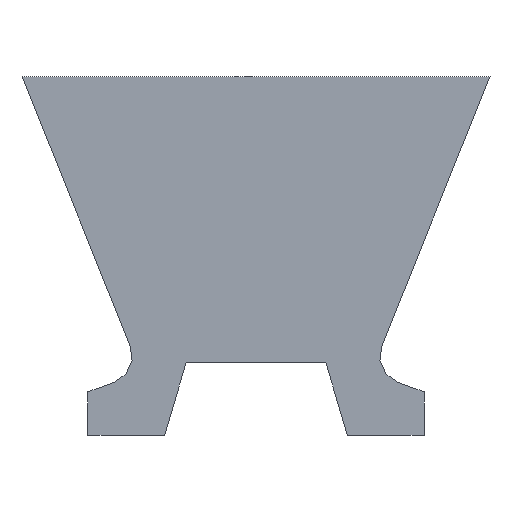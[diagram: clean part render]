
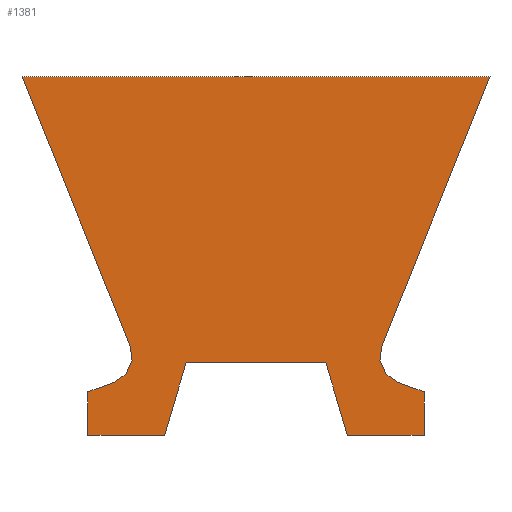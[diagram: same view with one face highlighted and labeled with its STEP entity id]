
A CAD part, front view. The second image highlights one B-rep face of the part: STEP entity #1381.
In plain terms, the highlighted planar face has unit normal (0, -1, 0).
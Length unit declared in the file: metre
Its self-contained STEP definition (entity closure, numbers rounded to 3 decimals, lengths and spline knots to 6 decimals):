
#196=CARTESIAN_POINT(' ',(-0.00515,-0.56,0.007423));
#197=VERTEX_POINT(' ',#196);
#211=CARTESIAN_POINT(' ',(0.00515,-0.56,0.007423));
#216=DIRECTION(' ',(-1.,0.,0.));
#221=VECTOR(' ',#216,1.);
#226=LINE('',#211,#221);
#231=CARTESIAN_POINT(' ',(0.00515,-0.56,0.007423));
#232=VERTEX_POINT(' ',#231);
#236=EDGE_CURVE(' ',#232,#197,#226,.T.);
#846=CARTESIAN_POINT(' ',(-0.002765,-0.56,0.001483));
#847=VERTEX_POINT(' ',#846);
#861=CARTESIAN_POINT(' ',(-0.00515,-0.56,0.007423));
#866=DIRECTION(' ',(0.373,0.,-0.928));
#871=VECTOR(' ',#866,1.);
#876=LINE('',#861,#871);
#881=EDGE_CURVE(' ',#197,#847,#876,.T.);
#911=DIRECTION(' ',(-0.,-1.,-0.));
#916=CARTESIAN_POINT(' ',(-0.00515,-0.56,-0.000477));
#921=DIRECTION(' ',(1.,0.,0.));
#926=AXIS2_PLACEMENT_3D(' ',#916,#911,#921);
#931=PLANE('',#926);
#936=ORIENTED_EDGE(' ',*,*,#236,.T.);
#941=ORIENTED_EDGE(' ',*,*,#881,.T.);
#946=CARTESIAN_POINT(' ',(-0.003322,-0.56,0.001259));
#951=DIRECTION(' ',(0.,1.,0.));
#956=DIRECTION(' ',(0.928,0.,0.373));
#961=AXIS2_PLACEMENT_3D(' ',#946,#951,#956);
#966=CIRCLE('',#961,0.0006);
#971=CARTESIAN_POINT(' ',(-0.003117,-0.56,0.000695));
#972=VERTEX_POINT(' ',#971);
#976=EDGE_CURVE(' ',#847,#972,#966,.T.);
#981=ORIENTED_EDGE(' ',*,*,#976,.T.);
#986=CARTESIAN_POINT(' ',(-0.003117,-0.56,0.000695));
#991=DIRECTION(' ',(-0.94,0.,-0.342));
#996=VECTOR(' ',#991,1.);
#1001=LINE('',#986,#996);
#1006=CARTESIAN_POINT(' ',(-0.0037,-0.56,0.000483));
#1007=VERTEX_POINT(' ',#1006);
#1011=EDGE_CURVE(' ',#972,#1007,#1001,.T.);
#1016=ORIENTED_EDGE(' ',*,*,#1011,.T.);
#1021=CARTESIAN_POINT(' ',(-0.0037,-0.56,0.000483));
#1026=DIRECTION(' ',(0.,0.,-1.));
#1031=VECTOR(' ',#1026,1.);
#1036=LINE('',#1021,#1031);
#1041=CARTESIAN_POINT(' ',(-0.0037,-0.56,-0.000477));
#1042=VERTEX_POINT(' ',#1041);
#1046=EDGE_CURVE(' ',#1007,#1042,#1036,.T.);
#1051=ORIENTED_EDGE(' ',*,*,#1046,.T.);
#1056=CARTESIAN_POINT(' ',(-0.0037,-0.56,-0.000477));
#1061=DIRECTION(' ',(1.,0.,0.));
#1066=VECTOR(' ',#1061,1.);
#1071=LINE('',#1056,#1066);
#1076=CARTESIAN_POINT(' ',(-0.002012,-0.56,-0.000477));
#1077=VERTEX_POINT(' ',#1076);
#1081=EDGE_CURVE(' ',#1042,#1077,#1071,.T.);
#1086=ORIENTED_EDGE(' ',*,*,#1081,.T.);
#1091=CARTESIAN_POINT(' ',(-0.002012,-0.56,-0.000477));
#1096=DIRECTION(' ',(0.285,0.,0.959));
#1101=VECTOR(' ',#1096,1.);
#1106=LINE('',#1091,#1101);
#1111=CARTESIAN_POINT(' ',(-0.001537,-0.56,0.001123));
#1112=VERTEX_POINT(' ',#1111);
#1116=EDGE_CURVE(' ',#1077,#1112,#1106,.T.);
#1121=ORIENTED_EDGE(' ',*,*,#1116,.T.);
#1126=CARTESIAN_POINT(' ',(-0.001537,-0.56,0.001123));
#1131=DIRECTION(' ',(1.,0.,0.));
#1136=VECTOR(' ',#1131,1.);
#1141=LINE('',#1126,#1136);
#1146=CARTESIAN_POINT(' ',(0.001537,-0.56,0.001123));
#1147=VERTEX_POINT(' ',#1146);
#1151=EDGE_CURVE(' ',#1112,#1147,#1141,.T.);
#1156=ORIENTED_EDGE(' ',*,*,#1151,.T.);
#1161=CARTESIAN_POINT(' ',(0.001537,-0.56,0.001123));
#1166=DIRECTION(' ',(0.285,0.,-0.959));
#1171=VECTOR(' ',#1166,1.);
#1176=LINE('',#1161,#1171);
#1181=CARTESIAN_POINT(' ',(0.002012,-0.56,-0.000477));
#1182=VERTEX_POINT(' ',#1181);
#1186=EDGE_CURVE(' ',#1147,#1182,#1176,.T.);
#1191=ORIENTED_EDGE(' ',*,*,#1186,.T.);
#1196=CARTESIAN_POINT(' ',(0.002012,-0.56,-0.000477));
#1201=DIRECTION(' ',(1.,0.,0.));
#1206=VECTOR(' ',#1201,1.);
#1211=LINE('',#1196,#1206);
#1216=CARTESIAN_POINT(' ',(0.0037,-0.56,-0.000477));
#1217=VERTEX_POINT(' ',#1216);
#1221=EDGE_CURVE(' ',#1182,#1217,#1211,.T.);
#1226=ORIENTED_EDGE(' ',*,*,#1221,.T.);
#1231=CARTESIAN_POINT(' ',(0.0037,-0.56,-0.000477));
#1236=DIRECTION(' ',(0.,0.,1.));
#1241=VECTOR(' ',#1236,1.);
#1246=LINE('',#1231,#1241);
#1251=CARTESIAN_POINT(' ',(0.0037,-0.56,0.000483));
#1252=VERTEX_POINT(' ',#1251);
#1256=EDGE_CURVE(' ',#1217,#1252,#1246,.T.);
#1261=ORIENTED_EDGE(' ',*,*,#1256,.T.);
#1266=CARTESIAN_POINT(' ',(0.0037,-0.56,0.000483));
#1271=DIRECTION(' ',(-0.94,0.,0.342));
#1276=VECTOR(' ',#1271,1.);
#1281=LINE('',#1266,#1276);
#1286=CARTESIAN_POINT(' ',(0.003117,-0.56,0.000695));
#1287=VERTEX_POINT(' ',#1286);
#1291=EDGE_CURVE(' ',#1252,#1287,#1281,.T.);
#1296=ORIENTED_EDGE(' ',*,*,#1291,.T.);
#1301=CARTESIAN_POINT(' ',(0.003322,-0.56,0.001259));
#1306=DIRECTION(' ',(-0.,1.,-0.));
#1311=DIRECTION(' ',(-0.342,0.,-0.94));
#1316=AXIS2_PLACEMENT_3D(' ',#1301,#1306,#1311);
#1321=CIRCLE('',#1316,0.0006);
#1326=CARTESIAN_POINT(' ',(0.002765,-0.56,0.001483));
#1327=VERTEX_POINT(' ',#1326);
#1331=EDGE_CURVE(' ',#1287,#1327,#1321,.T.);
#1336=ORIENTED_EDGE(' ',*,*,#1331,.T.);
#1341=CARTESIAN_POINT(' ',(0.002765,-0.56,0.001483));
#1346=DIRECTION(' ',(0.373,0.,0.928));
#1351=VECTOR(' ',#1346,1.);
#1356=LINE('',#1341,#1351);
#1361=EDGE_CURVE(' ',#1327,#232,#1356,.T.);
#1366=ORIENTED_EDGE(' ',*,*,#1361,.T.);
#1371=EDGE_LOOP(' ',(#936,#941,#981,#1016,#1051,#1086,#1121,#1156,#1191,#1226,#1261,#1296,#1336,#1366));
#1376=FACE_OUTER_BOUND(' ',#1371,.T.);
#1381=ADVANCED_FACE('',(#1376),#931,.T.);
